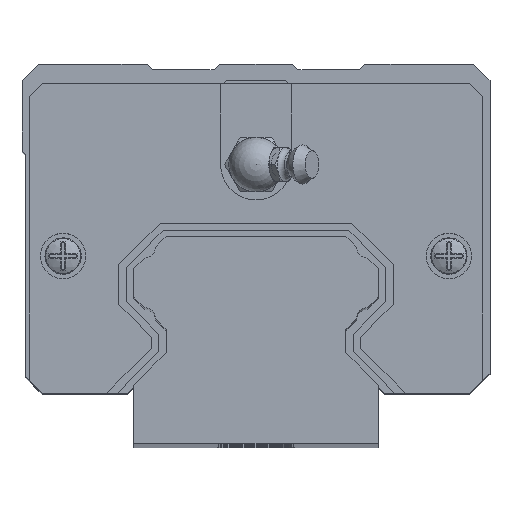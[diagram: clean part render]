
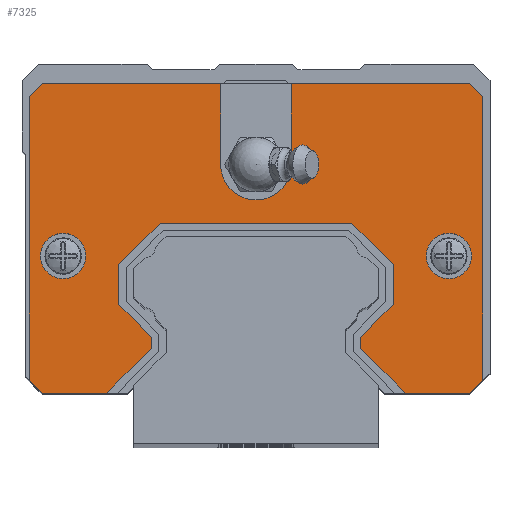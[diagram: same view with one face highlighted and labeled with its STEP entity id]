
A CAD part, top view. The second image highlights one B-rep face of the part: STEP entity #7325.
In plain terms, the highlighted planar face has unit normal (0, 0, 1).
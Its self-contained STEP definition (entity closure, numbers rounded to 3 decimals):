
#560=LINE('',#11809,#1330);
#564=LINE('',#11817,#1334);
#565=LINE('',#11819,#1335);
#566=LINE('',#11821,#1336);
#567=LINE('',#11823,#1337);
#568=LINE('',#11825,#1338);
#569=LINE('',#11827,#1339);
#570=LINE('',#11829,#1340);
#571=LINE('',#11831,#1341);
#572=LINE('',#11833,#1342);
#573=LINE('',#11835,#1343);
#574=LINE('',#11837,#1344);
#575=LINE('',#11839,#1345);
#576=LINE('',#11841,#1346);
#577=LINE('',#11843,#1347);
#578=LINE('',#11845,#1348);
#579=LINE('',#11847,#1349);
#580=LINE('',#11849,#1350);
#581=LINE('',#11853,#1351);
#582=LINE('',#11855,#1352);
#583=LINE('',#11857,#1353);
#584=LINE('',#11859,#1354);
#585=LINE('',#11860,#1355);
#1330=VECTOR('',#9594,1000.);
#1334=VECTOR('',#9600,1000.);
#1335=VECTOR('',#9601,1000.);
#1336=VECTOR('',#9602,1000.);
#1337=VECTOR('',#9603,1000.);
#1338=VECTOR('',#9604,1000.);
#1339=VECTOR('',#9605,1000.);
#1340=VECTOR('',#9606,1000.);
#1341=VECTOR('',#9607,1000.);
#1342=VECTOR('',#9608,1000.);
#1343=VECTOR('',#9609,1000.);
#1344=VECTOR('',#9610,1000.);
#1345=VECTOR('',#9611,1000.);
#1346=VECTOR('',#9612,1000.);
#1347=VECTOR('',#9613,1000.);
#1348=VECTOR('',#9614,1000.);
#1349=VECTOR('',#9615,1000.);
#1350=VECTOR('',#9616,1000.);
#1351=VECTOR('',#9619,1000.);
#1352=VECTOR('',#9620,1000.);
#1353=VECTOR('',#9621,1000.);
#1354=VECTOR('',#9622,1000.);
#1355=VECTOR('',#9623,1000.);
#1797=PLANE('',#7975);
#2038=FACE_BOUND('',#2852,.T.);
#2039=FACE_BOUND('',#2853,.T.);
#2363=FACE_OUTER_BOUND('',#2851,.T.);
#2851=EDGE_LOOP('',(#6347,#6348,#6349,#6350,#6351,#6352,#6353,#6354,#6355,
#6356,#6357,#6358,#6359,#6360,#6361,#6362,#6363,#6364,#6365,#6366,#6367,
#6368,#6369,#6370));
#2852=EDGE_LOOP('',(#6371));
#2853=EDGE_LOOP('',(#6372));
#3160=CIRCLE('',#7952,4.171);
#3162=CIRCLE('',#7955,4.171);
#3178=CIRCLE('',#7976,6.5);
#3704=VERTEX_POINT('',#11758);
#3706=VERTEX_POINT('',#11763);
#3726=VERTEX_POINT('',#11806);
#3727=VERTEX_POINT('',#11808);
#3730=VERTEX_POINT('',#11816);
#3731=VERTEX_POINT('',#11818);
#3732=VERTEX_POINT('',#11820);
#3733=VERTEX_POINT('',#11822);
#3734=VERTEX_POINT('',#11824);
#3735=VERTEX_POINT('',#11826);
#3736=VERTEX_POINT('',#11828);
#3737=VERTEX_POINT('',#11830);
#3738=VERTEX_POINT('',#11832);
#3739=VERTEX_POINT('',#11834);
#3740=VERTEX_POINT('',#11836);
#3741=VERTEX_POINT('',#11838);
#3742=VERTEX_POINT('',#11840);
#3743=VERTEX_POINT('',#11842);
#3744=VERTEX_POINT('',#11844);
#3745=VERTEX_POINT('',#11846);
#3746=VERTEX_POINT('',#11848);
#3747=VERTEX_POINT('',#11850);
#3748=VERTEX_POINT('',#11852);
#3749=VERTEX_POINT('',#11854);
#3750=VERTEX_POINT('',#11856);
#3751=VERTEX_POINT('',#11858);
#4619=EDGE_CURVE('',#3704,#3704,#3160,.T.);
#4621=EDGE_CURVE('',#3706,#3706,#3162,.T.);
#4641=EDGE_CURVE('',#3727,#3726,#560,.T.);
#4645=EDGE_CURVE('',#3726,#3730,#564,.T.);
#4646=EDGE_CURVE('',#3730,#3731,#565,.T.);
#4647=EDGE_CURVE('',#3731,#3732,#566,.T.);
#4648=EDGE_CURVE('',#3732,#3733,#567,.T.);
#4649=EDGE_CURVE('',#3733,#3734,#568,.T.);
#4650=EDGE_CURVE('',#3734,#3735,#569,.T.);
#4651=EDGE_CURVE('',#3735,#3736,#570,.T.);
#4652=EDGE_CURVE('',#3736,#3737,#571,.T.);
#4653=EDGE_CURVE('',#3737,#3738,#572,.T.);
#4654=EDGE_CURVE('',#3738,#3739,#573,.T.);
#4655=EDGE_CURVE('',#3739,#3740,#574,.T.);
#4656=EDGE_CURVE('',#3740,#3741,#575,.T.);
#4657=EDGE_CURVE('',#3741,#3742,#576,.T.);
#4658=EDGE_CURVE('',#3742,#3743,#577,.T.);
#4659=EDGE_CURVE('',#3743,#3744,#578,.T.);
#4660=EDGE_CURVE('',#3744,#3745,#579,.T.);
#4661=EDGE_CURVE('',#3745,#3746,#580,.T.);
#4662=EDGE_CURVE('',#3746,#3747,#3178,.T.);
#4663=EDGE_CURVE('',#3747,#3748,#581,.T.);
#4664=EDGE_CURVE('',#3748,#3749,#582,.T.);
#4665=EDGE_CURVE('',#3749,#3750,#583,.T.);
#4666=EDGE_CURVE('',#3750,#3751,#584,.T.);
#4667=EDGE_CURVE('',#3751,#3727,#585,.T.);
#6347=ORIENTED_EDGE('',*,*,#4645,.T.);
#6348=ORIENTED_EDGE('',*,*,#4646,.T.);
#6349=ORIENTED_EDGE('',*,*,#4647,.T.);
#6350=ORIENTED_EDGE('',*,*,#4648,.T.);
#6351=ORIENTED_EDGE('',*,*,#4649,.T.);
#6352=ORIENTED_EDGE('',*,*,#4650,.T.);
#6353=ORIENTED_EDGE('',*,*,#4651,.T.);
#6354=ORIENTED_EDGE('',*,*,#4652,.T.);
#6355=ORIENTED_EDGE('',*,*,#4653,.T.);
#6356=ORIENTED_EDGE('',*,*,#4654,.T.);
#6357=ORIENTED_EDGE('',*,*,#4655,.T.);
#6358=ORIENTED_EDGE('',*,*,#4656,.T.);
#6359=ORIENTED_EDGE('',*,*,#4657,.T.);
#6360=ORIENTED_EDGE('',*,*,#4658,.T.);
#6361=ORIENTED_EDGE('',*,*,#4659,.T.);
#6362=ORIENTED_EDGE('',*,*,#4660,.T.);
#6363=ORIENTED_EDGE('',*,*,#4661,.T.);
#6364=ORIENTED_EDGE('',*,*,#4662,.T.);
#6365=ORIENTED_EDGE('',*,*,#4663,.T.);
#6366=ORIENTED_EDGE('',*,*,#4664,.T.);
#6367=ORIENTED_EDGE('',*,*,#4665,.T.);
#6368=ORIENTED_EDGE('',*,*,#4666,.T.);
#6369=ORIENTED_EDGE('',*,*,#4667,.T.);
#6370=ORIENTED_EDGE('',*,*,#4641,.T.);
#6371=ORIENTED_EDGE('',*,*,#4621,.T.);
#6372=ORIENTED_EDGE('',*,*,#4619,.F.);
#7325=ADVANCED_FACE('',(#2363,#2038,#2039),#1797,.F.);
#7952=AXIS2_PLACEMENT_3D('',#11759,#9544,#9545);
#7955=AXIS2_PLACEMENT_3D('',#11764,#9550,#9551);
#7975=AXIS2_PLACEMENT_3D('',#11815,#9598,#9599);
#7976=AXIS2_PLACEMENT_3D('',#11851,#9617,#9618);
#9544=DIRECTION('center_axis',(0.,0.,1.));
#9545=DIRECTION('ref_axis',(1.,0.,0.));
#9550=DIRECTION('center_axis',(0.,0.,-1.));
#9551=DIRECTION('ref_axis',(-1.,0.,0.));
#9594=DIRECTION('',(1.,0.,0.));
#9598=DIRECTION('center_axis',(0.,0.,-1.));
#9599=DIRECTION('ref_axis',(-1.,0.,0.));
#9600=DIRECTION('',(0.707,0.707,0.));
#9601=DIRECTION('',(0.,1.,0.));
#9602=DIRECTION('',(-0.707,0.707,0.));
#9603=DIRECTION('',(0.,1.,0.));
#9604=DIRECTION('',(0.707,0.707,0.));
#9605=DIRECTION('',(1.,0.,0.));
#9606=DIRECTION('',(0.707,-0.707,0.));
#9607=DIRECTION('',(0.,-1.,0.));
#9608=DIRECTION('',(-0.707,-0.707,0.));
#9609=DIRECTION('',(0.,-1.,0.));
#9610=DIRECTION('',(0.707,-0.707,0.));
#9611=DIRECTION('',(1.,0.,0.));
#9612=DIRECTION('',(0.707,0.707,0.));
#9613=DIRECTION('',(0.,1.,0.));
#9614=DIRECTION('',(-0.707,0.707,0.));
#9615=DIRECTION('',(-1.,0.,0.));
#9616=DIRECTION('',(0.,-1.,0.));
#9617=DIRECTION('center_axis',(0.,0.,-1.));
#9618=DIRECTION('ref_axis',(-1.,0.,0.));
#9619=DIRECTION('',(0.,1.,0.));
#9620=DIRECTION('',(-1.,0.,0.));
#9621=DIRECTION('',(-0.707,-0.707,0.));
#9622=DIRECTION('',(0.,-1.,0.));
#9623=DIRECTION('',(0.707,-0.707,0.));
#11758=CARTESIAN_POINT('',(-31.283,25.2,68.7));
#11759=CARTESIAN_POINT('Origin',(-35.454,25.2,68.7));
#11763=CARTESIAN_POINT('',(39.625,25.2,68.7));
#11764=CARTESIAN_POINT('Origin',(35.454,25.2,68.7));
#11806=CARTESIAN_POINT('',(-27.443,0.,68.7));
#11808=CARTESIAN_POINT('',(-39.311,0.,68.7));
#11809=CARTESIAN_POINT('',(-39.311,0.,68.7));
#11815=CARTESIAN_POINT('Origin',(0.,-39.311,
68.7));
#11816=CARTESIAN_POINT('',(-19.215,8.228,68.7));
#11817=CARTESIAN_POINT('',(-27.443,0.,68.7));
#11818=CARTESIAN_POINT('',(-19.215,10.282,68.7));
#11819=CARTESIAN_POINT('',(-19.215,8.228,68.7));
#11820=CARTESIAN_POINT('',(-25.2,16.267,68.7));
#11821=CARTESIAN_POINT('',(-19.215,10.282,68.7));
#11822=CARTESIAN_POINT('',(-25.2,23.633,68.7));
#11823=CARTESIAN_POINT('',(-25.2,16.267,68.7));
#11824=CARTESIAN_POINT('',(-17.633,31.2,68.7));
#11825=CARTESIAN_POINT('',(-25.2,23.633,68.7));
#11826=CARTESIAN_POINT('',(17.633,31.2,68.7));
#11827=CARTESIAN_POINT('',(-17.633,31.2,68.7));
#11828=CARTESIAN_POINT('',(25.2,23.633,68.7));
#11829=CARTESIAN_POINT('',(25.2,23.633,68.7));
#11830=CARTESIAN_POINT('',(25.2,16.267,68.7));
#11831=CARTESIAN_POINT('',(25.2,16.267,68.7));
#11832=CARTESIAN_POINT('',(19.215,10.282,68.7));
#11833=CARTESIAN_POINT('',(19.215,10.282,68.7));
#11834=CARTESIAN_POINT('',(19.215,8.228,68.7));
#11835=CARTESIAN_POINT('',(19.215,8.228,68.7));
#11836=CARTESIAN_POINT('',(27.443,0.,68.7));
#11837=CARTESIAN_POINT('',(27.443,0.,68.7));
#11838=CARTESIAN_POINT('',(39.311,0.,68.7));
#11839=CARTESIAN_POINT('',(-39.311,0.,68.7));
#11840=CARTESIAN_POINT('',(41.71,2.399,68.7));
#11841=CARTESIAN_POINT('',(41.71,2.399,68.7));
#11842=CARTESIAN_POINT('',(41.71,54.471,68.7));
#11843=CARTESIAN_POINT('',(41.71,2.399,68.7));
#11844=CARTESIAN_POINT('',(39.311,56.87,68.7));
#11845=CARTESIAN_POINT('',(41.71,54.471,68.7));
#11846=CARTESIAN_POINT('',(6.5,56.87,68.7));
#11847=CARTESIAN_POINT('',(-39.311,56.87,68.7));
#11848=CARTESIAN_POINT('',(6.5,42.,68.7));
#11849=CARTESIAN_POINT('',(6.5,42.,68.7));
#11850=CARTESIAN_POINT('',(-6.5,42.,68.7));
#11851=CARTESIAN_POINT('Origin',(0.,42.,68.7));
#11852=CARTESIAN_POINT('',(-6.5,56.87,68.7));
#11853=CARTESIAN_POINT('',(-6.5,56.87,68.7));
#11854=CARTESIAN_POINT('',(-39.311,56.87,68.7));
#11855=CARTESIAN_POINT('',(-39.311,56.87,68.7));
#11856=CARTESIAN_POINT('',(-41.71,54.471,68.7));
#11857=CARTESIAN_POINT('',(-41.71,54.471,68.7));
#11858=CARTESIAN_POINT('',(-41.71,2.399,68.7));
#11859=CARTESIAN_POINT('',(-41.71,2.399,68.7));
#11860=CARTESIAN_POINT('',(-41.71,2.399,68.7));
